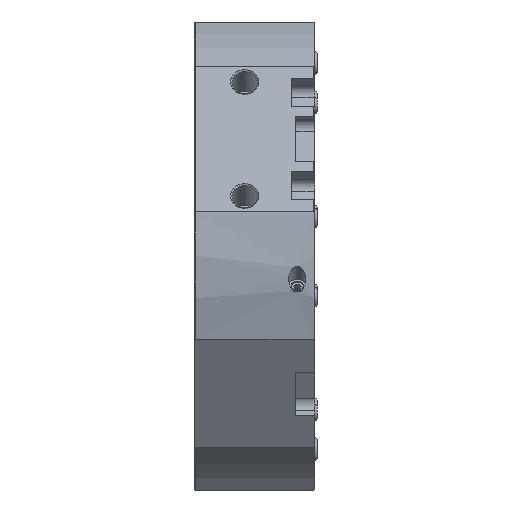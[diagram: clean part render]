
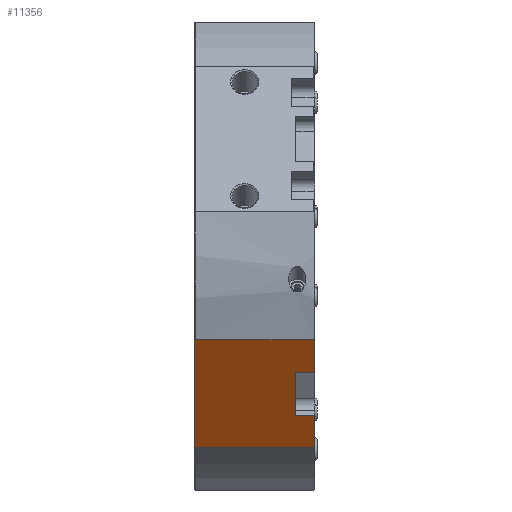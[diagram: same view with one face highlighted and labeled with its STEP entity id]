
A CAD part, left-side view. The second image highlights one B-rep face of the part: STEP entity #11356.
In plain terms, the highlighted planar face has unit normal (-0.819, 0, -0.574).
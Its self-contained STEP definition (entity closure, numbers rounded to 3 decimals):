
#172 = CARTESIAN_POINT ( 'NONE',  ( -54.775, 0., -64.736 ) ) ;
#292 = VECTOR ( 'NONE', #13658, 1000. ) ;
#299 = VERTEX_POINT ( 'NONE', #23582 ) ;
#318 = CARTESIAN_POINT ( 'NONE',  ( -72.333, -41., -39.661 ) ) ;
#319 = ORIENTED_EDGE ( 'NONE', *, *, #1836, .F. ) ;
#368 = CARTESIAN_POINT ( 'NONE',  ( -54.332, -40.8, -65.368 ) ) ;
#430 = VECTOR ( 'NONE', #16715, 1000. ) ;
#676 = AXIS2_PLACEMENT_3D ( 'NONE', #23382, #12370, #8360 ) ;
#884 = CARTESIAN_POINT ( 'NONE',  ( -54.332, 0., -65.368 ) ) ;
#970 = PLANE ( 'NONE',  #676 ) ;
#1014 = EDGE_CURVE ( 'NONE', #2010, #13969, #22345, .T. ) ;
#1046 = EDGE_CURVE ( 'NONE', #3490, #17745, #7064, .T. ) ;
#1183 = EDGE_CURVE ( 'NONE', #11562, #1780, #5037, .T. ) ;
#1324 = EDGE_CURVE ( 'NONE', #16724, #17745, #7710, .T. ) ;
#1780 = VERTEX_POINT ( 'NONE', #20334 ) ;
#1836 = EDGE_CURVE ( 'NONE', #19611, #7887, #1899, .T. ) ;
#1894 = VECTOR ( 'NONE', #20438, 1000. ) ;
#1899 = LINE ( 'NONE', #18289, #430 ) ;
#2010 = VERTEX_POINT ( 'NONE', #6350 ) ;
#2332 = CARTESIAN_POINT ( 'NONE',  ( -79.861, -40.868, -28.909 ) ) ;
#2612 = ORIENTED_EDGE ( 'NONE', *, *, #1183, .T. ) ;
#2812 = CARTESIAN_POINT ( 'NONE',  ( -80.009, -40.8, -28.698 ) ) ;
#3214 = ORIENTED_EDGE ( 'NONE', *, *, #1046, .T. ) ;
#3228 = LINE ( 'NONE', #19165, #11696 ) ;
#3490 = VERTEX_POINT ( 'NONE', #15074 ) ;
#3517 = CARTESIAN_POINT ( 'NONE',  ( -79.566, 0., -29.33 ) ) ;
#3881 = EDGE_LOOP ( 'NONE', ( #6206, #5313, #11019, #9089, #7992, #3214, #20564, #15790, #319, #16582, #5974, #2612 ) ) ;
#4214 = CARTESIAN_POINT ( 'NONE',  ( -54.775, -41., -64.736 ) ) ;
#4751 = EDGE_CURVE ( 'NONE', #20798, #3490, #3228, .T. ) ;
#4848 = LINE ( 'NONE', #12013, #22672 ) ;
#5036 = FACE_OUTER_BOUND ( 'NONE', #3881, .T. ) ;
#5037 = B_SPLINE_CURVE_WITH_KNOTS ( 'NONE', 3,
 ( #368, #13576, #6177, #4214 ),
 .UNSPECIFIED., .F., .F.,
 ( 4, 4 ),
 ( 0.036, 0.036 ),
 .UNSPECIFIED. ) ;
#5313 = ORIENTED_EDGE ( 'NONE', *, *, #1014, .T. ) ;
#5974 = ORIENTED_EDGE ( 'NONE', *, *, #14467, .T. ) ;
#6177 = CARTESIAN_POINT ( 'NONE',  ( -54.627, -40.934, -64.947 ) ) ;
#6206 = ORIENTED_EDGE ( 'NONE', *, *, #12477, .T. ) ;
#6350 = CARTESIAN_POINT ( 'NONE',  ( -62.008, -41., -54.406 ) ) ;
#7064 = B_SPLINE_CURVE_WITH_KNOTS ( 'NONE', 3,
 ( #17769, #9753, #2332, #2812 ),
 .UNSPECIFIED., .F., .F.,
 ( 4, 4 ),
 ( 0.08, 0.081 ),
 .UNSPECIFIED. ) ;
#7173 = CARTESIAN_POINT ( 'NONE',  ( -80.009, -40.8, -28.698 ) ) ;
#7353 = CARTESIAN_POINT ( 'NONE',  ( -80.009, 0., -28.698 ) ) ;
#7513 = CARTESIAN_POINT ( 'NONE',  ( -80.009, -34.5, -28.698 ) ) ;
#7604 = VERTEX_POINT ( 'NONE', #23420 ) ;
#7710 = LINE ( 'NONE', #7353, #1894 ) ;
#7775 = CARTESIAN_POINT ( 'NONE',  ( -80.009, -41., -28.698 ) ) ;
#7785 = B_SPLINE_CURVE_WITH_KNOTS ( 'NONE', 3,
 ( #172, #13218, #19586, #17556 ),
 .UNSPECIFIED., .F., .F.,
 ( 4, 4 ),
 ( 0.08, 0.081 ),
 .UNSPECIFIED. ) ;
#7887 = VERTEX_POINT ( 'NONE', #3517 ) ;
#7992 = ORIENTED_EDGE ( 'NONE', *, *, #4751, .T. ) ;
#8052 = LINE ( 'NONE', #884, #11271 ) ;
#8360 = DIRECTION ( 'NONE',  ( 0.574, 0., -0.819 ) ) ;
#8907 = CARTESIAN_POINT ( 'NONE',  ( -80.009, -0.2, -28.698 ) ) ;
#9089 = ORIENTED_EDGE ( 'NONE', *, *, #18604, .T. ) ;
#9541 = EDGE_CURVE ( 'NONE', #19611, #7604, #7785, .T. ) ;
#9753 = CARTESIAN_POINT ( 'NONE',  ( -79.714, -40.934, -29.119 ) ) ;
#10126 = DIRECTION ( 'NONE',  ( -0.574, 0., 0.819 ) ) ;
#10792 = LINE ( 'NONE', #7775, #292 ) ;
#11019 = ORIENTED_EDGE ( 'NONE', *, *, #13016, .F. ) ;
#11271 = VECTOR ( 'NONE', #21542, 1000. ) ;
#11356 = ADVANCED_FACE ( 'NONE', ( #5036 ), #970, .F. ) ;
#11562 = VERTEX_POINT ( 'NONE', #22789 ) ;
#11696 = VECTOR ( 'NONE', #10126, 1000. ) ;
#12013 = CARTESIAN_POINT ( 'NONE',  ( -72.333, 0., -39.661 ) ) ;
#12113 = DIRECTION ( 'NONE',  ( 0., 1., 0. ) ) ;
#12370 = DIRECTION ( 'NONE',  ( 0.819, 0., 0.574 ) ) ;
#12477 = EDGE_CURVE ( 'NONE', #1780, #2010, #10792, .T. ) ;
#13016 = EDGE_CURVE ( 'NONE', #299, #13969, #17501, .T. ) ;
#13218 = CARTESIAN_POINT ( 'NONE',  ( -54.627, -0.066, -64.947 ) ) ;
#13576 = CARTESIAN_POINT ( 'NONE',  ( -54.479, -40.868, -65.158 ) ) ;
#13658 = DIRECTION ( 'NONE',  ( -0.574, 0., 0.819 ) ) ;
#13661 = CARTESIAN_POINT ( 'NONE',  ( -54.775, 0., -64.736 ) ) ;
#13817 = DIRECTION ( 'NONE',  ( 0., -1., 0. ) ) ;
#13969 = VERTEX_POINT ( 'NONE', #16930 ) ;
#14467 = EDGE_CURVE ( 'NONE', #7604, #11562, #8052, .T. ) ;
#15074 = CARTESIAN_POINT ( 'NONE',  ( -79.566, -41., -29.33 ) ) ;
#15790 = ORIENTED_EDGE ( 'NONE', *, *, #16701, .T. ) ;
#16257 = CARTESIAN_POINT ( 'NONE',  ( -79.714, -0.066, -29.119 ) ) ;
#16582 = ORIENTED_EDGE ( 'NONE', *, *, #9541, .T. ) ;
#16701 = EDGE_CURVE ( 'NONE', #16724, #7887, #17330, .T. ) ;
#16715 = DIRECTION ( 'NONE',  ( -0.574, 0., 0.819 ) ) ;
#16724 = VERTEX_POINT ( 'NONE', #18746 ) ;
#16930 = CARTESIAN_POINT ( 'NONE',  ( -62.008, -34.5, -54.406 ) ) ;
#17330 = B_SPLINE_CURVE_WITH_KNOTS ( 'NONE', 3,
 ( #8907, #18332, #16257, #23847 ),
 .UNSPECIFIED., .F., .F.,
 ( 4, 4 ),
 ( 0.036, 0.036 ),
 .UNSPECIFIED. ) ;
#17501 = LINE ( 'NONE', #7513, #18078 ) ;
#17556 = CARTESIAN_POINT ( 'NONE',  ( -54.332, -0.2, -65.368 ) ) ;
#17745 = VERTEX_POINT ( 'NONE', #7173 ) ;
#17769 = CARTESIAN_POINT ( 'NONE',  ( -79.566, -41., -29.33 ) ) ;
#18078 = VECTOR ( 'NONE', #18894, 1000. ) ;
#18289 = CARTESIAN_POINT ( 'NONE',  ( -80.009, 0., -28.698 ) ) ;
#18332 = CARTESIAN_POINT ( 'NONE',  ( -79.861, -0.132, -28.909 ) ) ;
#18604 = EDGE_CURVE ( 'NONE', #299, #20798, #4848, .T. ) ;
#18746 = CARTESIAN_POINT ( 'NONE',  ( -80.009, -0.2, -28.698 ) ) ;
#18894 = DIRECTION ( 'NONE',  ( 0.574, 0., -0.819 ) ) ;
#19165 = CARTESIAN_POINT ( 'NONE',  ( -80.009, -41., -28.698 ) ) ;
#19586 = CARTESIAN_POINT ( 'NONE',  ( -54.479, -0.132, -65.158 ) ) ;
#19611 = VERTEX_POINT ( 'NONE', #13661 ) ;
#20334 = CARTESIAN_POINT ( 'NONE',  ( -54.775, -41., -64.736 ) ) ;
#20438 = DIRECTION ( 'NONE',  ( 0., -1., 0. ) ) ;
#20564 = ORIENTED_EDGE ( 'NONE', *, *, #1324, .F. ) ;
#20798 = VERTEX_POINT ( 'NONE', #318 ) ;
#20892 = VECTOR ( 'NONE', #12113, 1000. ) ;
#21455 = CARTESIAN_POINT ( 'NONE',  ( -62.008, 0., -54.406 ) ) ;
#21542 = DIRECTION ( 'NONE',  ( 0., -1., 0. ) ) ;
#22345 = LINE ( 'NONE', #21455, #20892 ) ;
#22672 = VECTOR ( 'NONE', #13817, 1000. ) ;
#22789 = CARTESIAN_POINT ( 'NONE',  ( -54.332, -40.8, -65.368 ) ) ;
#23382 = CARTESIAN_POINT ( 'NONE',  ( -80.009, 0., -28.698 ) ) ;
#23420 = CARTESIAN_POINT ( 'NONE',  ( -54.332, -0.2, -65.368 ) ) ;
#23582 = CARTESIAN_POINT ( 'NONE',  ( -72.333, -34.5, -39.661 ) ) ;
#23847 = CARTESIAN_POINT ( 'NONE',  ( -79.566, 0., -29.33 ) ) ;
